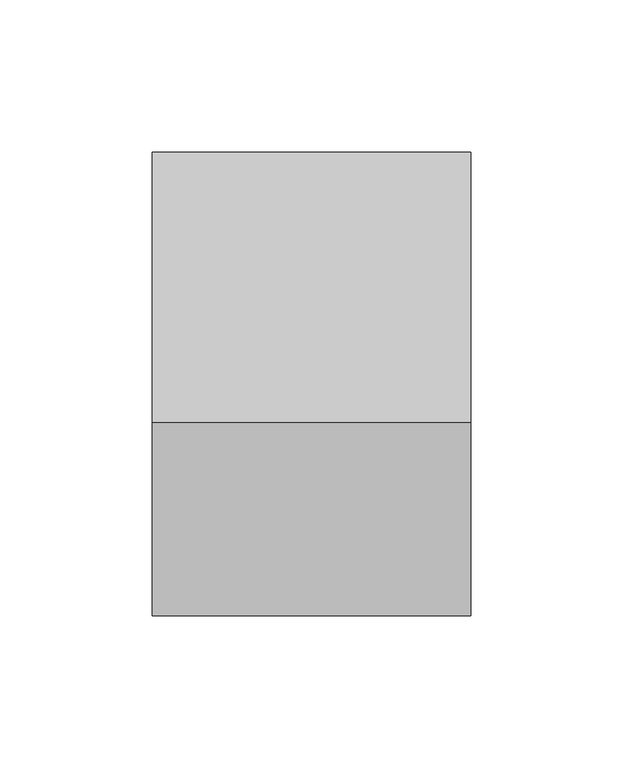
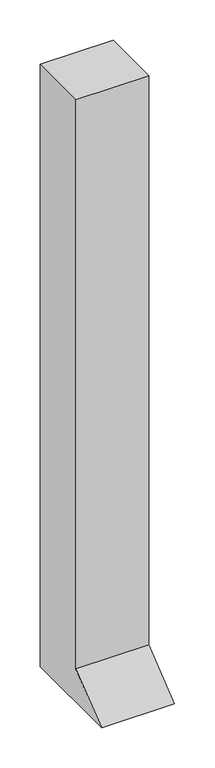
"""IFC4 building model written with IfcOpenShell, lengths in millimetres: proxy geometry, Riser-Walkercell-Wiremold : CBR-HT."""

from ifc_helpers import new_model, si_unit, frame, origin, place, context, project, spatial, polyline, outline, extrude, source, transform, mapped, element, save


def electrical_fixtures_e0bb919c(model_context):
    return source(origin(), model_context, "Body", "SweptSolid", [
        extrude(outline(polyline([(76.2, 0.0), (-76.2, 0.0), (-12.7, 50.8), (-12.7, 914.4), (76.2, 914.4), (76.2, 0.0)])), frame((-52.3875, 0.0, 0.0), z_axis=(1.0, 0.0, 0.0), x_axis=(0.0, 1.0, 0.0)), (0.0, 0.0, 1.0), 104.775),
    ])


if __name__ == "__main__":
    model = new_model("IFC4")
    model_context = context("Model", 3, world=origin())
    ifc_project = project(units=[si_unit("LENGTHUNIT", "METRE", prefix="MILLI")], contexts=[model_context])
    site = spatial("IfcSite", under=ifc_project)
    building = spatial("IfcBuilding", under=site)
    placement = place(None, origin())
    electrical_fixtures_shape = electrical_fixtures_e0bb919c(model_context)
    element("IfcBuildingElementProxy", 1, Name="Riser-Walkercell-Wiremold : CBR-HT", ObjectType="Riser-Walkercell-Wiremold : CBR-HT", at=placement, inside=building, context=model_context, shape_type="MappedRepresentation", body=[
        mapped(electrical_fixtures_shape, transform((0.0, 0.0, 0.0), x_axis=(1.0, 0.0, 0.0), y_axis=(0.0, 1.0, 0.0), z_axis=(0.0, 0.0, 1.0))),
    ])
    save(model, "model.ifc")
